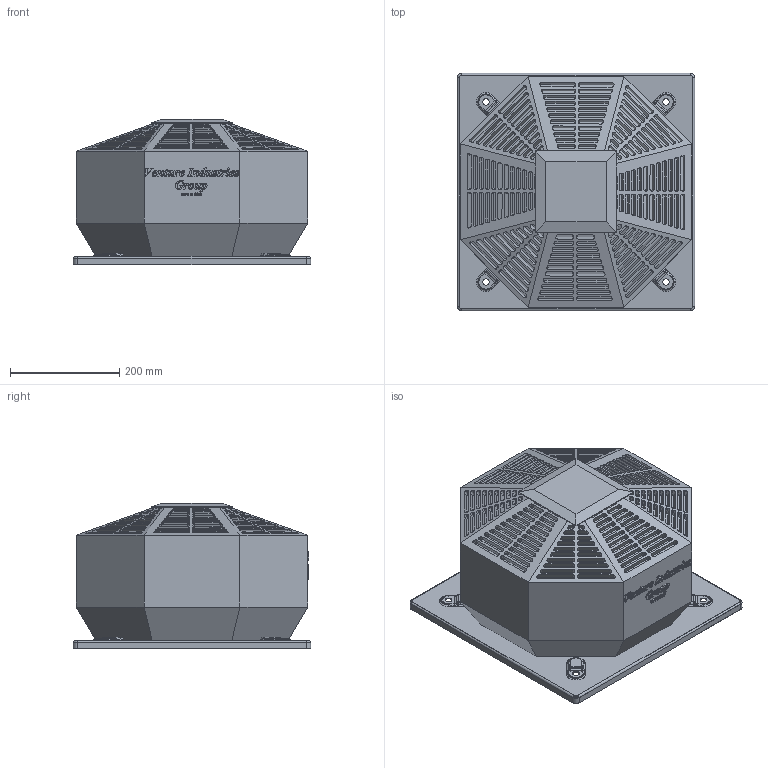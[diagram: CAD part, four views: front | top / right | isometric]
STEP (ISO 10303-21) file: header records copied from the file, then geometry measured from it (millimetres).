
FILE_DESCRIPTION(/* description */ (''),/* implementation_level */ '2;1');
FILE_NAME(/* name */ 'D:\Piotr - Dokumenty\Modele uproszczone\RFV\RFV X-200\komplet\RFV_X_200_X.stp',/* time_stamp */ '2021-03-17T12:25:03+01:00',/* author */ ('Piotr.Nowotniak'),/* organization */ (''),/* preprocessor_version */ 'ST-DEVELOPER v18',/* originating_system */ 'Autodesk Inventor 2020',/* authorisation */ '');
FILE_SCHEMA (('AUTOMOTIVE_DESIGN { 1 0 10303 214 3 1 1 }'));
Products named in the file (1): RFV_RFV_EC_X_200_X
Bounding box: 435 x 435 x 265.8 mm (x, y, z)
Volume: 30845061.8 mm3; surface area: 946495.7 mm2
Topology: 1 solids, 1 shells, 2533 faces, 6734 edges, 4431 vertices
Faces by surface type: plane 1241, cylinder 813, bspline 438, torus 33, cone 8
Full cylindrical faces by diameter (mm): 12 x4, 232.9 x1
Entity records: 86468 total; most frequent: CARTESIAN_POINT 22685, ORIENTED_EDGE 13468, DIRECTION 11792, EDGE_CURVE 6734, VERTEX_POINT 4431, LINE 4128, VECTOR 4128, AXIS2_PLACEMENT_3D 3832
